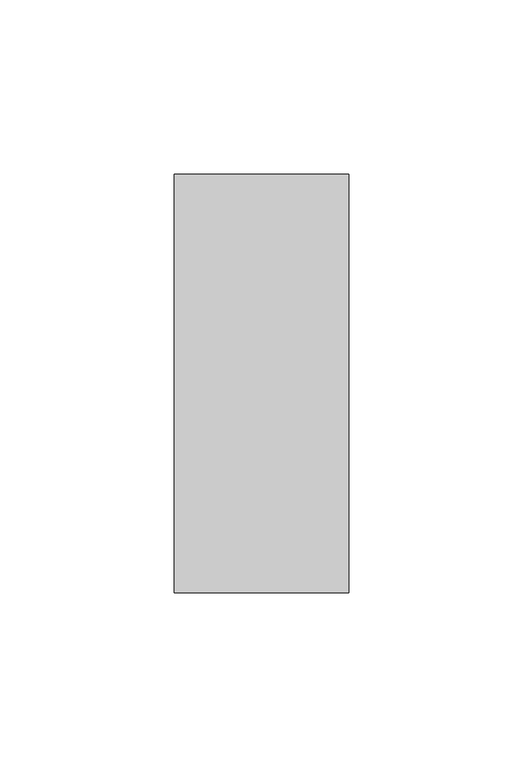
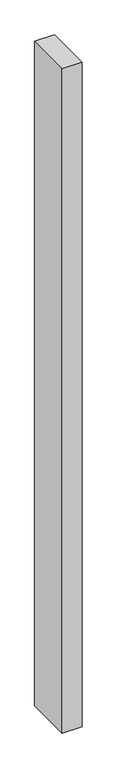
"""IFC4 building model written with IfcOpenShell, lengths in millimetres: member geometry, Прямоугольный импост : 50х120 мм."""

from ifc_helpers import new_model, si_unit, frame, origin, place, context, project, spatial, polyline, outline, extrude, source, transform, mapped, element, save


def member_3852d6f5(model_context):
    return source(origin(), model_context, "Body", "SweptSolid", [
        extrude(outline(polyline([(0.0, 60.0), (0.0, -60.0), (-50.0, -60.0), (-50.0, 60.0), (0.0, 60.0)])), frame((0.0, 0.0, -1766.4565367), z_axis=(0.0, 0.0, 1.0), x_axis=(1.0, 0.0, 0.0)), (0.0, 0.0, 1.0), 1766.4565367),
    ])


if __name__ == "__main__":
    model = new_model("IFC4")
    model_context = context("Model", 3, world=origin())
    ifc_project = project(units=[si_unit("LENGTHUNIT", "METRE", prefix="MILLI")], contexts=[model_context])
    site = spatial("IfcSite", under=ifc_project)
    building = spatial("IfcBuilding", under=site)
    placement = place(None, origin())
    member_shape = member_3852d6f5(model_context)
    element("IfcMember", 1, ObjectType="Прямоугольный импост : 50х120 мм", at=placement, inside=building, context=model_context, shape_type="MappedRepresentation", body=[
        mapped(member_shape, transform((0.0, 0.0, 0.0), x_axis=(1.0, 0.0, 0.0), y_axis=(0.0, 1.0, 0.0), z_axis=(0.0, 0.0, 1.0))),
    ])
    save(model, "model.ifc")
